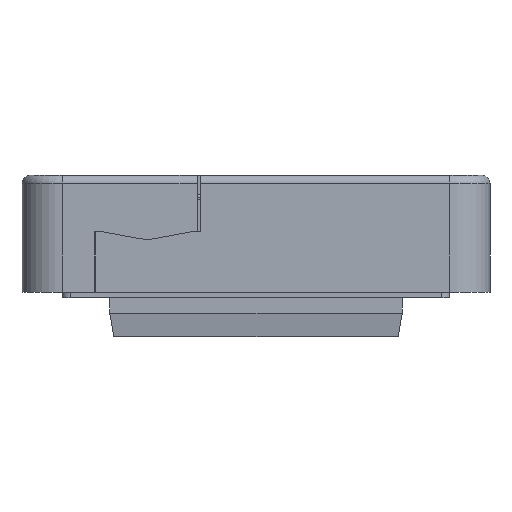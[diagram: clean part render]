
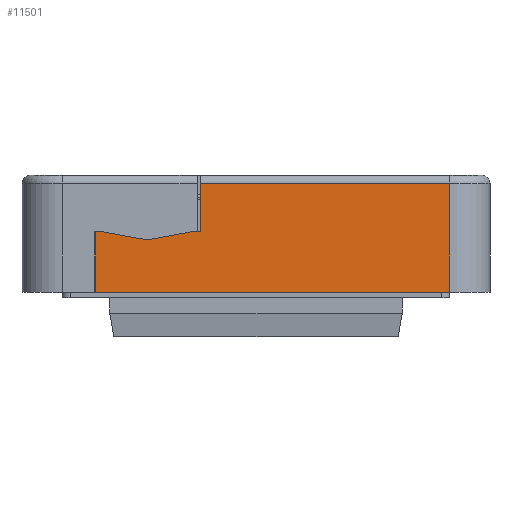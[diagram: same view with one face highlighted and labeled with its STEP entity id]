
A CAD part, left-side view. The second image highlights one B-rep face of the part: STEP entity #11501.
In plain terms, the highlighted planar face has unit normal (-1, 0, 0) as drawn and (1, 0, 0) by its records, which use the part's own axes.
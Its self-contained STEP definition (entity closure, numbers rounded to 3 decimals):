
#1201=FACE_OUTER_BOUND('',#1864,.T.);
#1864=EDGE_LOOP('',(#9455,#9456,#9457,#9458,#9459,#9460,#9461,#9462,#9463));
#2859=LINE('',#18198,#4056);
#2895=LINE('',#18349,#4092);
#2899=LINE('',#18355,#4096);
#2901=LINE('',#18359,#4098);
#2902=LINE('',#18361,#4099);
#2903=LINE('',#18362,#4100);
#2904=LINE('',#18364,#4101);
#2905=LINE('',#18366,#4102);
#2906=LINE('',#18367,#4103);
#4056=VECTOR('',#14333,10.);
#4092=VECTOR('',#14421,10.);
#4096=VECTOR('',#14427,10.);
#4098=VECTOR('',#14431,10.);
#4099=VECTOR('',#14432,10.);
#4100=VECTOR('',#14433,10.);
#4101=VECTOR('',#14434,10.);
#4102=VECTOR('',#14435,10.);
#4103=VECTOR('',#14436,10.);
#5227=VERTEX_POINT('',#18195);
#5228=VERTEX_POINT('',#18197);
#5276=VERTEX_POINT('',#18347);
#5277=VERTEX_POINT('',#18348);
#5278=VERTEX_POINT('',#18354);
#5279=VERTEX_POINT('',#18358);
#5280=VERTEX_POINT('',#18360);
#5281=VERTEX_POINT('',#18363);
#5282=VERTEX_POINT('',#18365);
#6690=EDGE_CURVE('',#5228,#5227,#2859,.T.);
#6748=EDGE_CURVE('',#5276,#5277,#2895,.T.);
#6752=EDGE_CURVE('',#5278,#5276,#2899,.T.);
#6754=EDGE_CURVE('',#5227,#5279,#2901,.T.);
#6755=EDGE_CURVE('',#5279,#5280,#2902,.T.);
#6756=EDGE_CURVE('',#5280,#5278,#2903,.T.);
#6757=EDGE_CURVE('',#5281,#5277,#2904,.T.);
#6758=EDGE_CURVE('',#5282,#5281,#2905,.T.);
#6759=EDGE_CURVE('',#5228,#5282,#2906,.T.);
#9455=ORIENTED_EDGE('',*,*,#6754,.T.);
#9456=ORIENTED_EDGE('',*,*,#6755,.T.);
#9457=ORIENTED_EDGE('',*,*,#6756,.T.);
#9458=ORIENTED_EDGE('',*,*,#6752,.T.);
#9459=ORIENTED_EDGE('',*,*,#6748,.T.);
#9460=ORIENTED_EDGE('',*,*,#6757,.F.);
#9461=ORIENTED_EDGE('',*,*,#6758,.F.);
#9462=ORIENTED_EDGE('',*,*,#6759,.F.);
#9463=ORIENTED_EDGE('',*,*,#6690,.T.);
#10960=PLANE('',#12343);
#11501=ADVANCED_FACE('',(#1201),#10960,.T.);
#12343=AXIS2_PLACEMENT_3D('',#18357,#14429,#14430);
#14333=DIRECTION('',(0.,0.,1.));
#14421=DIRECTION('',(0.,0.,1.));
#14427=DIRECTION('',(0.,1.,0.));
#14429=DIRECTION('center_axis',(1.,0.,0.));
#14430=DIRECTION('ref_axis',(0.,0.,-1.));
#14431=DIRECTION('',(0.,1.,0.));
#14432=DIRECTION('',(0.,0.984,0.179));
#14433=DIRECTION('',(0.,0.984,-0.179));
#14434=DIRECTION('',(0.,1.,0.));
#14435=DIRECTION('',(0.,0.,1.));
#14436=DIRECTION('',(0.,-1.,0.));
#18195=CARTESIAN_POINT('',(50.5,6.9,-8.));
#18197=CARTESIAN_POINT('',(50.5,6.9,-14.));
#18198=CARTESIAN_POINT('',(50.5,6.9,-5.927));
#18347=CARTESIAN_POINT('',(50.5,19.9,-8.));
#18348=CARTESIAN_POINT('',(50.5,19.9,-0.5));
#18349=CARTESIAN_POINT('',(50.5,19.9,-2.554));
#18354=CARTESIAN_POINT('',(50.5,19.,-8.));
#18355=CARTESIAN_POINT('',(50.5,-3.75,-8.));
#18357=CARTESIAN_POINT('Origin',(50.5,-27.5,0.));
#18358=CARTESIAN_POINT('',(50.5,8.,-8.));
#18359=CARTESIAN_POINT('',(50.5,-3.75,-8.));
#18360=CARTESIAN_POINT('',(50.5,13.5,-7.));
#18361=CARTESIAN_POINT('',(50.5,-5.728,-10.496));
#18362=CARTESIAN_POINT('',(50.5,-4.21,-3.78));
#18363=CARTESIAN_POINT('',(50.5,-24.,-0.5));
#18364=CARTESIAN_POINT('',(50.5,-29.,-0.5));
#18365=CARTESIAN_POINT('',(50.5,-24.,-14.));
#18366=CARTESIAN_POINT('',(50.5,-24.,-0.25));
#18367=CARTESIAN_POINT('',(50.5,-13.75,-14.));
